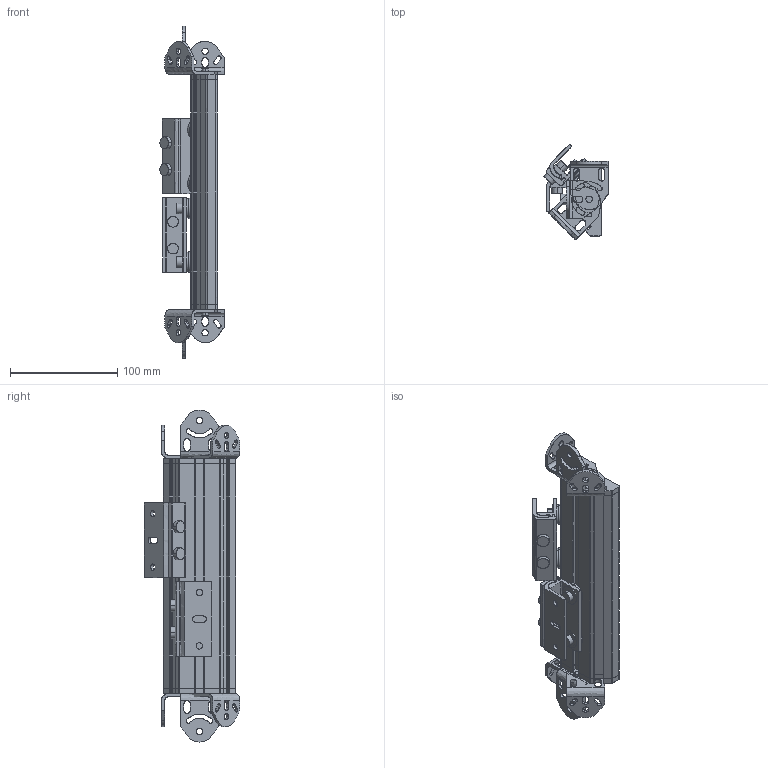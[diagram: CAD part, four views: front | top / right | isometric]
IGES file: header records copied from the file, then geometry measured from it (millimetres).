
Global section: file name: M:\acadjob\Spiegel\UM60-Spiegel\DXF-IGES-Daten für Kunden\IGES\UM60_150.igs; native system: AutoCAD-15.05s (LMS Tech) (Microsoft Windows NT Version 5.1 (x86)); preprocessor: Autodesk IGES Translator R2000i (Jul 31 2000) from Autodesk, Inc.; date: 20070307.112432; units: millimetre
Bounding box: 59.88 x 89.1 x 310.1 mm (x, y, z)
Surface area: 133501.5 mm2 (no closed solid volume)
Topology: 0 solids, 0 shells, 611 faces, 14242 edges, 14242 vertices
Faces by surface type: bspline 611
